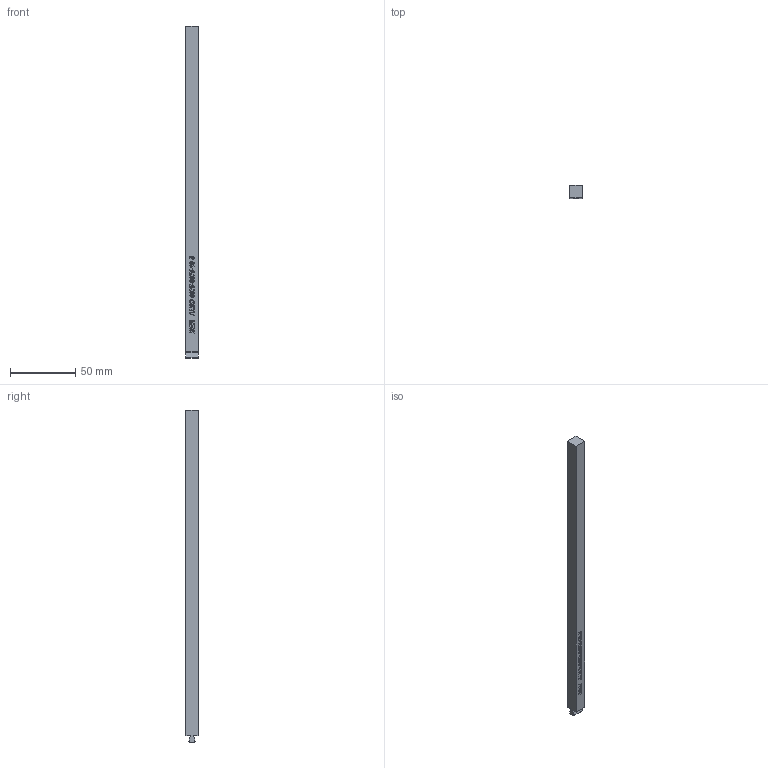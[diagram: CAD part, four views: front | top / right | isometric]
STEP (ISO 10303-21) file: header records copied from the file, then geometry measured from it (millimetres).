
FILE_DESCRIPTION (( 'STEP AP203' ), '1' );
FILE_NAME ('ALBD-0375-0375-10-5.STEP', '2021-01-11T20:19:05', ( '' ), ( '' ), 'SwSTEP 2.0', 'SolidWorks 2020', '' );
FILE_SCHEMA (( 'CONFIG_CONTROL_DESIGN' ));
Length unit declared in the file: inch
Products named in the file (1): ALBD-0375-0375-10-5
Bounding box: 9.53 x 9.53 x 254 mm (x, y, z)
Volume: 22768 mm3; surface area: 9862.2 mm2
Topology: 1 solids, 1 shells, 202 faces, 510 edges, 340 vertices
Faces by surface type: plane 151, bspline 51
Entity records: 7935 total; most frequent: CARTESIAN_POINT 3332, ORIENTED_EDGE 1020, DIRECTION 712, EDGE_CURVE 510, LINE 408, VECTOR 408, VERTEX_POINT 340, EDGE_LOOP 232
